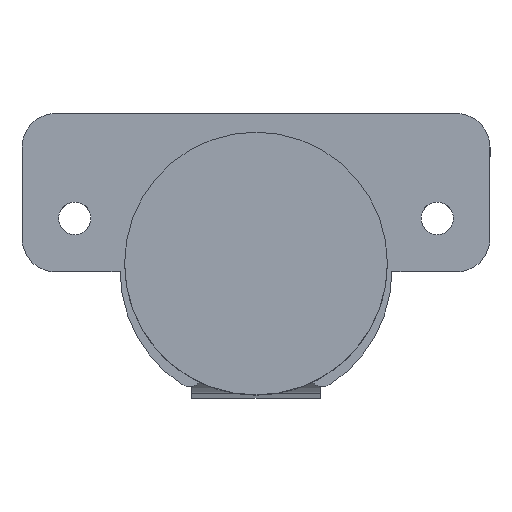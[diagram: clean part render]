
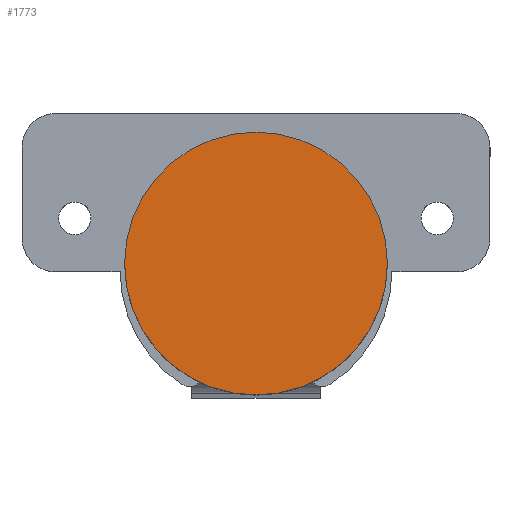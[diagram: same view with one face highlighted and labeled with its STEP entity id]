
A CAD part, top view. The second image highlights one B-rep face of the part: STEP entity #1773.
In plain terms, the highlighted planar face has unit normal (0, 0, 1).
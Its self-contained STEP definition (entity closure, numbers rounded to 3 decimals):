
#270 = AXIS2_PLACEMENT_3D ( 'NONE', #868, #316, #2136 ) ;
#316 = DIRECTION ( 'NONE',  ( 0., 0., 1. ) ) ;
#447 = CARTESIAN_POINT ( 'NONE',  ( 0., 23.526, 49.814 ) ) ;
#663 = AXIS2_PLACEMENT_3D ( 'NONE', #760, #1144, #1130 ) ;
#760 = CARTESIAN_POINT ( 'NONE',  ( 7.7, 34.493, 49.814 ) ) ;
#868 = CARTESIAN_POINT ( 'NONE',  ( 0., 23.526, 49.814 ) ) ;
#909 = VERTEX_POINT ( 'NONE', #1647 ) ;
#936 = CIRCLE ( 'NONE', #2147, 17.4 ) ;
#945 = ORIENTED_EDGE ( 'NONE', *, *, #1614, .T. ) ;
#1130 = DIRECTION ( 'NONE',  ( -1., 0., 0. ) ) ;
#1144 = DIRECTION ( 'NONE',  ( 0., 0., -1. ) ) ;
#1169 = CIRCLE ( 'NONE', #270, 17.4 ) ;
#1331 = ORIENTED_EDGE ( 'NONE', *, *, #1446, .T. ) ;
#1335 = DIRECTION ( 'NONE',  ( 1., 0., 0. ) ) ;
#1351 = EDGE_LOOP ( 'NONE', ( #945, #1331 ) ) ;
#1370 = DIRECTION ( 'NONE',  ( 0., 0., 1. ) ) ;
#1446 = EDGE_CURVE ( 'NONE', #2135, #909, #936, .T. ) ;
#1614 = EDGE_CURVE ( 'NONE', #909, #2135, #1169, .T. ) ;
#1647 = CARTESIAN_POINT ( 'NONE',  ( -17.4, 23.526, 49.814 ) ) ;
#1694 = PLANE ( 'NONE',  #663 ) ;
#1713 = CARTESIAN_POINT ( 'NONE',  ( 17.4, 23.526, 49.814 ) ) ;
#1773 = ADVANCED_FACE ( 'NONE', ( #2062 ), #1694, .F. ) ;
#2062 = FACE_OUTER_BOUND ( 'NONE', #1351, .T. ) ;
#2135 = VERTEX_POINT ( 'NONE', #1713 ) ;
#2136 = DIRECTION ( 'NONE',  ( 1., 0., 0. ) ) ;
#2147 = AXIS2_PLACEMENT_3D ( 'NONE', #447, #1370, #1335 ) ;
